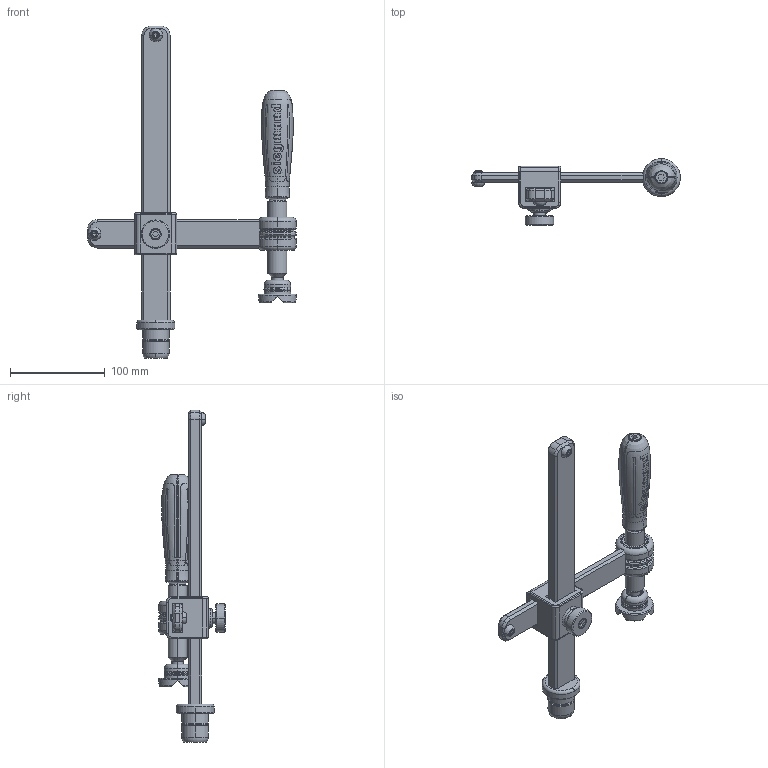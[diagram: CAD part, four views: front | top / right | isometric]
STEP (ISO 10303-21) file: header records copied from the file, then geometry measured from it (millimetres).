
FILE_DESCRIPTION(('STEP AP214'),'1');
FILE_NAME('C:/Users/E.Bergmann/Desktop/Formate Neu/280610.STP','2011-09-01T12:20:34',(' '),(' '),'Spatial InterOp 3D',' ',' ');
FILE_SCHEMA(('automotive_design'));
Length unit declared in the file: millimetre
Products named in the file (15): Quader; Flachkopfschraube ISO 7380 M8x12; Zylinder; Kugel; MariA9135y8j
Bounding box: 220 x 70.42 x 350 mm (x, y, z)
Volume: 411512.4 mm3; surface area: 134508.2 mm2
Topology: 15 solids, 15 shells, 3140 faces, 7965 edges, 4871 vertices
Faces by surface type: bspline 2516, plane 170, cylinder 154, torus 144, cone 84, sphere 38, revolution 26, extrusion 8
Entity records: 180163 total; most frequent: CARTESIAN_POINT 97250, ORIENTED_EDGE 15890, EDGE_CURVE 7945, DIRECTION 6016, B_SPLINE_CURVE_WITH_KNOTS 5053, VERTEX_POINT 4871, EDGE_LOOP 3234, STYLED_ITEM 3155
